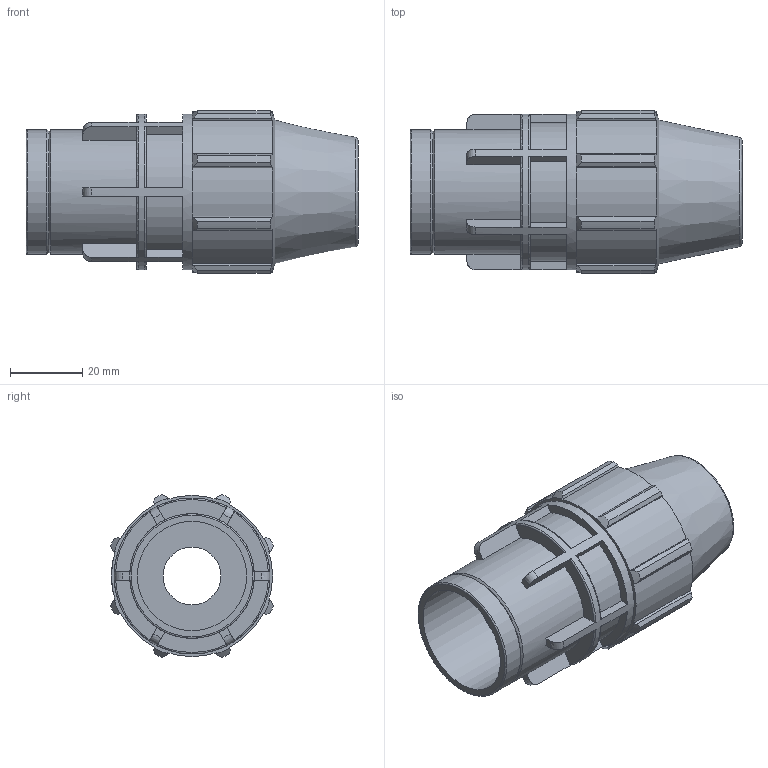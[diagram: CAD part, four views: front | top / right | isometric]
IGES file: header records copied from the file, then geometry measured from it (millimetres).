
Global section: file name: 070300020010_180300020010_0703060200100A.ipt; native system: Autodesk Inventor 2015; preprocessor: unknown; author: KIM; date: 20170606.110359; units: millimetre
Bounding box: 92 x 45.16 x 45.16 mm (x, y, z)
Volume: 71225.2 mm3; surface area: 21785.5 mm2
Topology: 1 solids, 1 shells, 148 faces, 413 edges, 277 vertices
Faces by surface type: plane 86, revolution 25, cylinder 25, cone 12
Full cylindrical faces by diameter (mm): 34.56 x2, 43.2 x1
